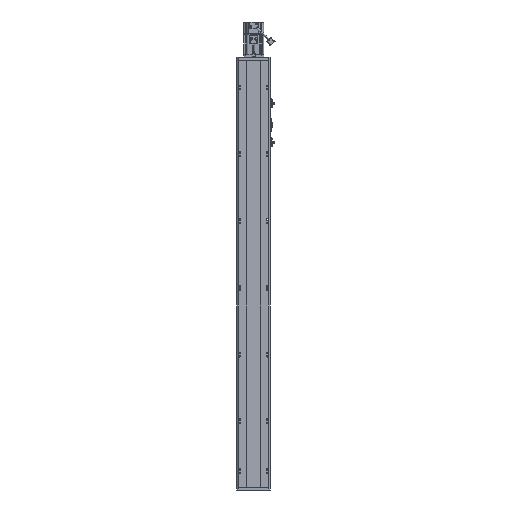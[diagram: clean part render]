
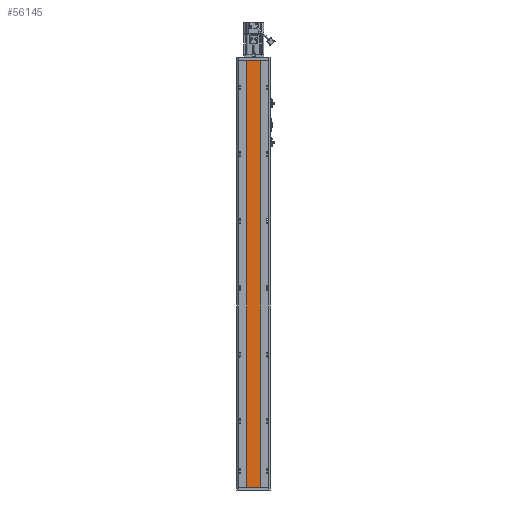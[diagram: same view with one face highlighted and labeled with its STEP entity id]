
A CAD part, front view. The second image highlights one B-rep face of the part: STEP entity #56145.
In plain terms, the highlighted planar face has unit normal (0, -1, 0).
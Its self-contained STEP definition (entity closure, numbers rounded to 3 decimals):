
#5596 = EDGE_CURVE ( 'NONE', #31029, #26600, #85678, .T. ) ;
#5618 = EDGE_CURVE ( 'NONE', #15084, #31029, #84547, .T. ) ;
#6617 = FACE_OUTER_BOUND ( 'NONE', #43593, .T. ) ;
#8049 = LINE ( 'NONE', #17862, #71570 ) ;
#13621 = DIRECTION ( 'NONE',  ( 0., 1., 0. ) ) ;
#15084 = VERTEX_POINT ( 'NONE', #95994 ) ;
#17862 = CARTESIAN_POINT ( 'NONE',  ( 20., 0., -1278.5 ) ) ;
#26600 = VERTEX_POINT ( 'NONE', #42478 ) ;
#31029 = VERTEX_POINT ( 'NONE', #62839 ) ;
#36427 = DIRECTION ( 'NONE',  ( -1., 0., 0. ) ) ;
#39644 = VERTEX_POINT ( 'NONE', #55241 ) ;
#41103 = AXIS2_PLACEMENT_3D ( 'NONE', #103862, #13621, #71421 ) ;
#42478 = CARTESIAN_POINT ( 'NONE',  ( -20., 0., 0. ) ) ;
#42954 = DIRECTION ( 'NONE',  ( 0., 0., 1. ) ) ;
#43593 = EDGE_LOOP ( 'NONE', ( #95646, #103044, #104693, #74799 ) ) ;
#55241 = CARTESIAN_POINT ( 'NONE',  ( 20., 0., 0. ) ) ;
#55835 = EDGE_CURVE ( 'NONE', #15084, #39644, #8049, .T. ) ;
#55981 = EDGE_CURVE ( 'NONE', #39644, #26600, #104696, .T. ) ;
#56145 = ADVANCED_FACE ( 'NONE', ( #6617 ), #103168, .F. ) ;
#62839 = CARTESIAN_POINT ( 'NONE',  ( -20., 0., -1278.5 ) ) ;
#62847 = DIRECTION ( 'NONE',  ( -1., 0., 0. ) ) ;
#62976 = CARTESIAN_POINT ( 'NONE',  ( 20., 0., -1278.5 ) ) ;
#65348 = DIRECTION ( 'NONE',  ( 0., 0., 1. ) ) ;
#65366 = CARTESIAN_POINT ( 'NONE',  ( -20., 0., -1278.5 ) ) ;
#71421 = DIRECTION ( 'NONE',  ( -1., 0., 0. ) ) ;
#71570 = VECTOR ( 'NONE', #42954, 1000. ) ;
#74799 = ORIENTED_EDGE ( 'NONE', *, *, #55835, .T. ) ;
#84547 = LINE ( 'NONE', #62976, #85993 ) ;
#85315 = CARTESIAN_POINT ( 'NONE',  ( 20., 0., 0. ) ) ;
#85531 = VECTOR ( 'NONE', #36427, 1000. ) ;
#85678 = LINE ( 'NONE', #65366, #85696 ) ;
#85696 = VECTOR ( 'NONE', #65348, 1000. ) ;
#85993 = VECTOR ( 'NONE', #62847, 1000. ) ;
#95646 = ORIENTED_EDGE ( 'NONE', *, *, #55981, .T. ) ;
#95994 = CARTESIAN_POINT ( 'NONE',  ( 20., 0., -1278.5 ) ) ;
#103044 = ORIENTED_EDGE ( 'NONE', *, *, #5596, .F. ) ;
#103168 = PLANE ( 'NONE',  #41103 ) ;
#103862 = CARTESIAN_POINT ( 'NONE',  ( 20., 0., -1278.5 ) ) ;
#104693 = ORIENTED_EDGE ( 'NONE', *, *, #5618, .F. ) ;
#104696 = LINE ( 'NONE', #85315, #85531 ) ;
